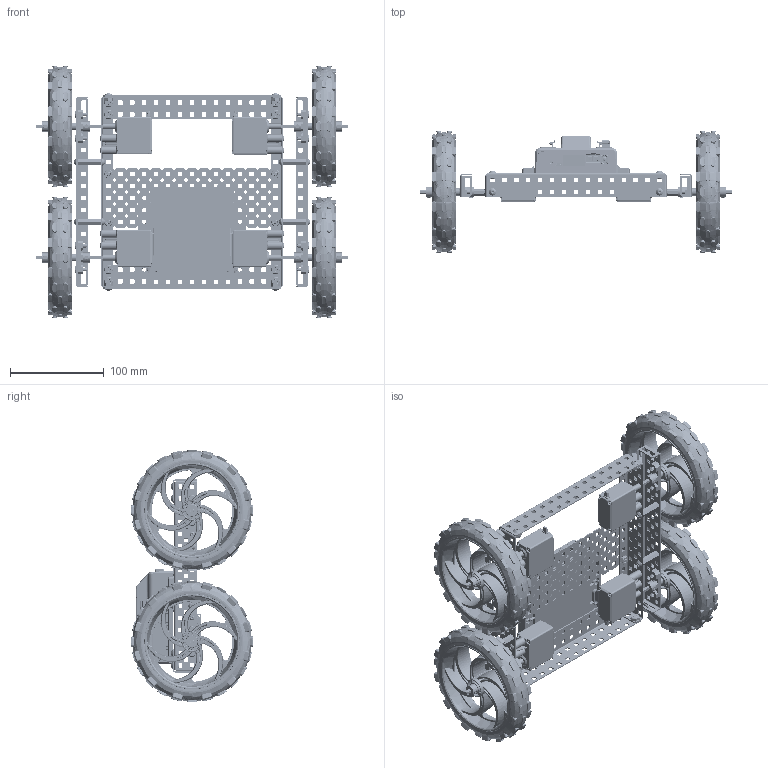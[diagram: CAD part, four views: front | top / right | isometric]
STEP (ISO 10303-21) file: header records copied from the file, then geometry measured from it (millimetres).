
FILE_DESCRIPTION (( 'STEP AP203' ), '1' );
FILE_NAME ('TUMBLER-Rev2-ASSY.STEP', '2010-10-19T18:11:02', ( '' ), ( '' ), 'SwSTEP 2.0', 'SolidWorks 2010', '' );
FILE_SCHEMA (( 'CONFIG_CONTROL_DESIGN' ));
Products named in the file (47): TUMBLER-Rev2-ASSY; ANG-HH22-15-SK RevA; VL-RAIL-21-16 RevA; VL-PLATE-5-15 RevA; BEAM-1000; SCREW-832-0250; NUT-832-KEPS; VEX-MOTOR; Vex-Motor-Bottom-Plate; Vex-Motor-Bottom-Housing; Vex-Wire-Support; Motor-Coupler; Vex-Motor-Output-Gear; Vex-Motor-Top-Housing; Insert-Nut-632-Simple; BEARING-FLAT; SCREW-632-0250; BEARING-RIVET; SPACER-THIN; SHAFT-COLLAR; SHAFT-3000; VEX-LARGE-WHEEL; LARGE-WHEEL-HUB; LARGE-WHEEL-TIRE; 276-2194 Rev1-Cortex; 276-2194-001 Rev2; 276-2194-BOTTOM-CASE; 276-2194-SHORT_LOCK_TAB; 276-2194-LONG_LOCK_TAB; 276-2194-PWM_LOCK_BUCKET; 276-2194-SMALL_LOCK_TAB; 276-2194-SWITCH_BUTTON; 276-2194-2_0_PCB_ASSY_REV2_ANY_ASM; 276-2194-2_0_WIFI_PCB_REV1_ANY; 276-2194-WIFI_PCB_2PIN-MALE_BATTBKP_ANY; 276-2194-2_0_BATT-POWER_SWITCH_REV1_ANY_ASM; 276-2194-NONE-42108; 276-2194-NONE-47360; 276-2194-RIGHT_ANGLE_MICRO_SWITCH_ANY; 276-2194-MICROCONTROLLER-PCB-PIN4_ANY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
Assembly tree (133 placements, depth 5):
  TUMBLER-Rev2-ASSY
    NUT-832-KEPS  x16
    VEX-MOTOR  x4
      Insert-Nut-632-Simple
      Vex-Wire-Support
      Vex-Motor-Bottom-Housing
      Vex-Motor-Output-Gear
      Vex-Motor-Bottom-Plate
      Vex-Motor-Top-Housing
      Motor-Coupler
    SCREW-632-0250  x8
    BEAM-1000  x4
    SCREW-832-0250  x24
    BEARING-RIVET  x8
    SHAFT-COLLAR  x8
    SHAFT-3000  x4
    VEX-LARGE-WHEEL  x4
      LARGE-WHEEL-TIRE
      LARGE-WHEEL-HUB
    VL-RAIL-21-16 RevA  x4
    SPACER-THIN  x4
    BEARING-FLAT  x4
    ANG-HH22-15-SK RevA  x2
    276-2194 Rev1-Cortex
      276-2194-LONG_LOCK_TAB
      276-2194-LIGHTPIPE  x3
      276-2194-SHORT_LOCK_TAB
      276-2194-BOTTOM-CASE
      276-2194-SWITCH_BUTTON
      276-2194-001 Rev2
      276-2194-SMALL_LOCK_TAB
      276-2194-2_0_PCB_ASSY_REV2_ANY_ASM
        276-2194-2_0_WIFI_PCB_REV1_ANY
        276-2194-2_0_WIFI_CONTACT_BLOCK_REV1_ANY  x2
        276-2194-MICROCONTROLLER-PCB-PIN4_ANY  x2
        276-2194-RIGHT_ANGLE_MICRO_SWITCH_ANY
        276-2194-WIFI_PCB_2PIN-MALE_BATTBKP_ANY
        276-2194-2_0_BATT-POWER_SWITCH_REV1_ANY_ASM
          276-2194-NONE-42108
          276-2194-NONE-47360
        276-2194-100
          KUSBV-AS-1-N-WHT
          90deg-Header  x2
          276-2194-101
      276-2194-PWM_LOCK_BUCKET
      276-2194-MOTOR_LOCK_BUCKET
    VL-PLATE-5-15 RevA
Bounding box: 332.51 x 129.46 x 269.12 mm (x, y, z)
Volume: 815136.9 mm3; surface area: 719313.3 mm2
Topology: 179 solids, 180 shells, 23917 faces, 64288 edges, 40955 vertices
Faces by surface type: plane 9856, cylinder 7178, bspline 5006, cone 1485, torus 332, sphere 60
Entity records: 368375 total; most frequent: CARTESIAN_POINT 158970, ORIENTED_EDGE 46248, DIRECTION 36275, EDGE_CURVE 23124, VERTEX_POINT 14904, VECTOR 13059, LINE 13059, AXIS2_PLACEMENT_3D 11608
